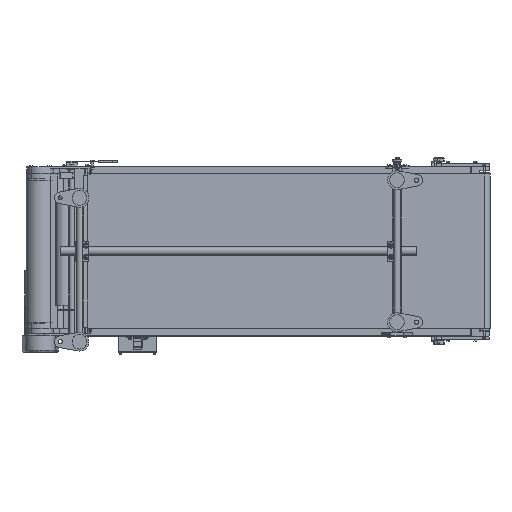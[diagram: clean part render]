
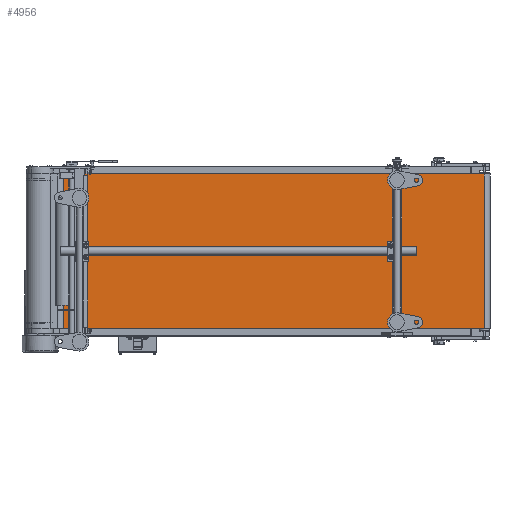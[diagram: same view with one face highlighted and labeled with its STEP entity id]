
A CAD part, front view. The second image highlights one B-rep face of the part: STEP entity #4956.
In plain terms, the highlighted planar face has unit normal (0.006, -1, 0).
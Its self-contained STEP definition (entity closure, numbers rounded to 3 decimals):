
#4956=ADVANCED_FACE('',(#25152),#25151,.F.);
#25151=PLANE('',#38462);
#25152=FACE_OUTER_BOUND('',#38463,.T.);
#38459=CARTESIAN_POINT('',(1493.141,-32.944,-260.));
#38460=DIRECTION('',(-0.006,1.,0.));
#38461=DIRECTION('',(-1.,-0.006,0.));
#38462=AXIS2_PLACEMENT_3D('',#38459,#38460,#38461);
#38463=EDGE_LOOP('',(#47807,#47808,#47809,#47810));
#47807=ORIENTED_EDGE('',*,*,#52488,.T.);
#47808=ORIENTED_EDGE('',*,*,#52491,.F.);
#47809=ORIENTED_EDGE('',*,*,#52484,.F.);
#47810=ORIENTED_EDGE('',*,*,#52492,.T.);
#52484=EDGE_CURVE('',#83425,#83432,#83433,.T.);
#52488=EDGE_CURVE('',#83459,#83452,#83460,.T.);
#52491=EDGE_CURVE('',#83432,#83452,#83479,.T.);
#52492=EDGE_CURVE('',#83425,#83459,#83485,.T.);
#83425=VERTEX_POINT('',#102669);
#83432=VERTEX_POINT('',#102674);
#83433=LINE('',#102675,#102676);
#83452=VERTEX_POINT('',#102687);
#83459=VERTEX_POINT('',#102692);
#83460=LINE('',#102693,#102694);
#83479=LINE('',#102704,#102705);
#83485=LINE('',#102707,#102708);
#102669=CARTESIAN_POINT('',(119.585,-40.575,250.));
#102674=CARTESIAN_POINT('',(1483.141,-33.,250.));
#102675=CARTESIAN_POINT('',(119.585,-40.575,250.));
#102676=VECTOR('',#102677,1363.577);
#102677=DIRECTION('',(1.,0.006,0.));
#102687=CARTESIAN_POINT('',(1483.141,-33.,-250.));
#102692=CARTESIAN_POINT('',(119.585,-40.575,-250.));
#102693=CARTESIAN_POINT('',(119.585,-40.575,-250.));
#102694=VECTOR('',#102695,1363.577);
#102695=DIRECTION('',(1.,0.006,0.));
#102704=CARTESIAN_POINT('',(1483.141,-33.,250.));
#102705=VECTOR('',#102706,500.);
#102706=DIRECTION('',(0.,0.,-1.));
#102707=CARTESIAN_POINT('',(119.585,-40.575,250.));
#102708=VECTOR('',#102709,500.);
#102709=DIRECTION('',(0.,0.,-1.));
